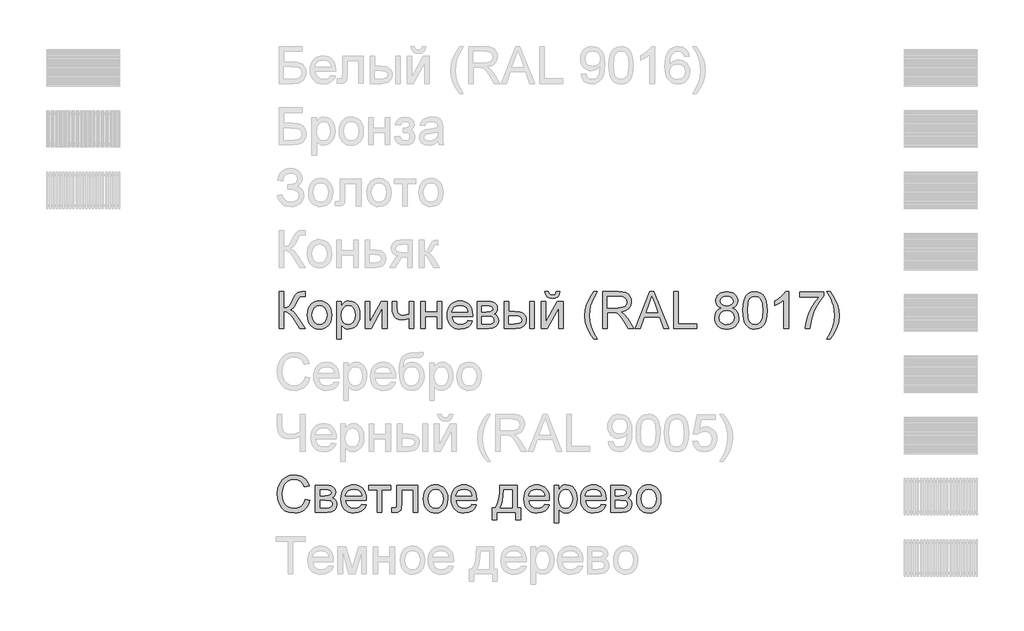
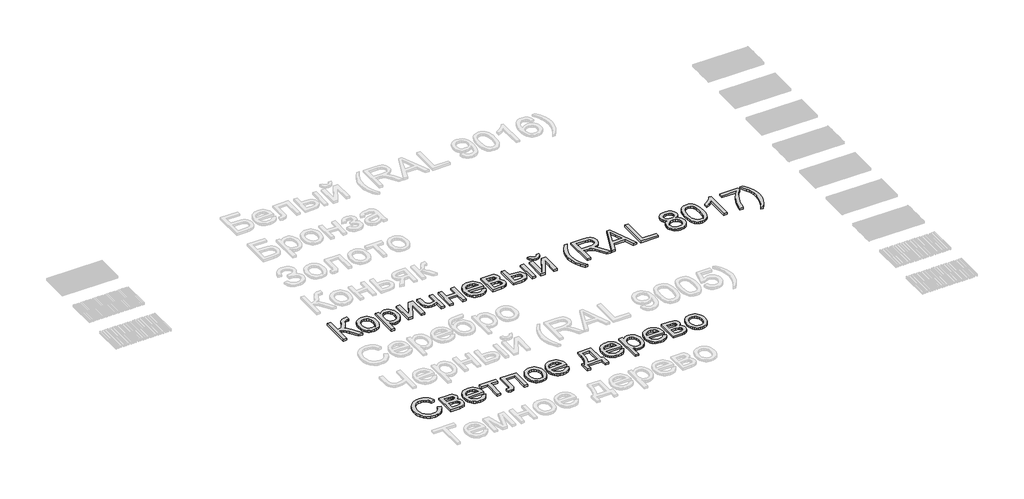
# One storey, part 5 of 10: 2 proxies.
"""IFC4 building model written with IfcOpenShell, lengths in millimetres."""

from ifc_helpers import new_model, si_unit, origin, origin_with_axes, place, context, project, spatial, polyline, outline, extrude, element, save

model = new_model("IFC4")

# Units and contexts
model_context = context("Model", 3, world=origin())
ifc_project = project(units=[si_unit("LENGTHUNIT", "METRE", prefix="MILLI")], contexts=[model_context])

# Site, building, storey
site = spatial("IfcSite", under=ifc_project)
building = spatial("IfcBuilding", under=site)
storey = spatial("IfcBuildingStorey", under=building, Name="Уровень 1", Elevation=0.0)

# Proxies
placement = place(None, origin())
element("IfcBuildingElementProxy", 1, Name="300", ObjectType="300", at=placement, inside=storey, context=model_context, shape_type="SweptSolid", body=[
    extrude(outline(polyline([(7102.1636245, -20213.7438159), (7139.8347408, -20213.7438159), (7139.8347408, -20345.592723), (7165.3381601, -20343.1003225), (7181.9572292, -20335.6231209), (7195.3941191, -20318.0291645), (7211.3510007, -20285.1864994), (7232.1363334, -20243.0640109), (7242.1611178, -20231.650472), (7255.6807811, -20222.2051018), (7271.7296331, -20215.8591374), (7289.3419836, -20213.7438159), (7314.0636537, -20214.1852743), (7314.0636537, -20251.8563906), (7305.7495206, -20251.6356614), (7297.4353875, -20251.4149322), (7280.181722, -20253.6774065), (7268.0048279, -20260.4648293), (7257.5201911, -20274.7202566), (7245.6376026, -20299.2395916), (7231.0602786, -20329.7737972), (7218.966158, -20346.4756398), (7192.9569009, -20362.0738364), (7207.5480205, -20368.2818451), (7222.0379726, -20379.1067728), (7250.7143741, -20414.6073853), (7314.0636537, -20515.1127464), (7270.3592727, -20515.1127464), (7216.7956542, -20430.2055819), (7196.111489, -20402.9731172), (7179.0877497, -20385.8758015), (7161.6777343, -20376.8534955), (7139.8347408, -20373.8460602), (7139.8347408, -20515.1127464), (7102.1636245, -20515.1127464), (7102.1636245, -20213.7438159)])), origin_with_axes(), (0.0, 0.0, 1.0), 20.0),
    extrude(outline(polyline([(7332.8992119, -20404.4538422), (7334.9363584, -20375.7912363), (7341.0477981, -20351.0925588), (7351.2335308, -20330.3578099), (7365.4935566, -20313.5869894), (7379.8501515, -20302.8678278), (7395.6966684, -20295.2112838), (7413.0331075, -20290.6173573), (7431.8594686, -20289.0860485), (7452.642502, -20290.9507504), (7471.4343742, -20296.544856), (7488.2350851, -20305.8683653), (7503.0446346, -20318.9212784), (7515.1318574, -20335.2621367), (7523.765588, -20354.449482), (7528.9458264, -20376.4833143), (7530.6725725, -20401.3636335), (7527.6191519, -20439.4210259), (7518.4588902, -20468.391733), (7503.4585019, -20490.0875737), (7482.8847013, -20506.3203667), (7458.4481398, -20516.4463186), (7431.8594686, -20519.8216359), (7410.7729325, -20517.9638318), (7391.8063163, -20512.3904196), (7374.9596202, -20503.1013992), (7360.2328441, -20490.0967707), (7348.27438, -20473.5972632), (7339.7326199, -20453.823606), (7334.6075639, -20430.775799), (7332.8992119, -20404.4538422)]), holes=[polyline([(7370.5703282, -20404.3802658), (7374.9297298, -20438.4737297), (7388.0079347, -20462.7631385), (7407.6896215, -20477.3036743), (7431.8594686, -20482.1505196), (7455.9189511, -20477.2760832), (7475.5638496, -20462.6527739), (7488.6420545, -20438.0414684), (7493.0014562, -20403.2030434), (7488.6144634, -20370.1028609), (7475.453485, -20346.144546), (7455.7809953, -20331.6040101), (7431.8594686, -20326.7571648), (7407.6896215, -20331.585616), (7388.0079347, -20346.0709696), (7374.9297298, -20370.305196), (7370.5703282, -20404.3802658)])]), origin_with_axes(), (0.0, 0.0, 1.0), 20.0),
    extrude(outline(polyline([(7573.0525783, -20599.8727581), (7573.0525783, -20293.7949381), (7610.7236946, -20293.7949381), (7610.7236946, -20330.7302904), (7623.0109533, -20312.5109346), (7636.7697399, -20299.497109), (7652.8093949, -20291.6888137), (7671.9392586, -20289.0860485), (7697.4150868, -20292.7280803), (7719.6903416, -20303.6541756), (7737.826924, -20321.2021467), (7750.8867348, -20344.7098062), (7758.7778036, -20372.4665028), (7761.4081598, -20402.7615851), (7758.4375127, -20434.9788508), (7749.5255714, -20463.7932081), (7734.9574444, -20487.7423259), (7715.0182403, -20505.3638735), (7691.7956893, -20516.2071953), (7667.3775219, -20519.8216359), (7650.059477, -20517.4028118), (7634.5992361, -20510.1463394), (7621.3646813, -20499.192653), (7610.7236946, -20485.6821868), (7610.7236946, -20599.8727581), (7573.0525783, -20599.8727581)]), holes=[polyline([(7610.7236946, -20406.2196758), (7614.7979877, -20439.991243), (7627.020867, -20463.6092671), (7645.0562818, -20477.5152065), (7666.5681815, -20482.1505196), (7688.4295691, -20477.3496596), (7706.9248364, -20462.9470795), (7719.5339917, -20438.4645327), (7723.7370435, -20403.4237726), (7719.6351593, -20369.8361465), (7707.3295066, -20345.8870286), (7689.3216829, -20331.5396308), (7668.1132859, -20326.7571648), (7646.8221154, -20331.8431334), (7628.124513, -20347.1010392), (7615.0738992, -20372.0526355), (7610.7236946, -20406.2196758)])]), origin_with_axes(), (0.0, 0.0, 1.0), 20.0),
    extrude(outline(polyline([(7803.7881657, -20293.7949381), (7841.459282, -20293.7949381), (7841.459282, -20462.5791975), (7934.018392, -20293.7949381), (7982.7259681, -20293.7949381), (7982.7259681, -20515.1127464), (7945.0548518, -20515.1127464), (7945.0548518, -20347.3585566), (7853.084353, -20515.1127464), (7803.7881657, -20515.1127464), (7803.7881657, -20293.7949381)])), origin_with_axes(), (0.0, 0.0, 1.0), 20.0),
    extrude(outline(polyline([(8025.105974, -20293.7949381), (8062.7770903, -20293.7949381), (8062.7770903, -20336.2485203), (8065.8305109, -20376.0533522), (8071.026844, -20387.623241), (8080.5090025, -20397.6112371), (8093.6056015, -20404.5090245), (8109.6452565, -20406.808287), (8132.6930635, -20403.9572015), (8161.6637706, -20395.4039451), (8161.6637706, -20293.7949381), (8199.3348869, -20293.7949381), (8199.3348869, -20515.1127464), (8161.6637706, -20515.1127464), (8161.6637706, -20431.5299571), (8129.5108842, -20441.2420417), (8099.5652898, -20444.4794033), (8076.7841973, -20441.104086), (8056.8541902, -20430.9781341), (8041.3203729, -20415.9593516), (8031.7278499, -20397.9055427), (8026.761443, -20377.3593333), (8025.105974, -20354.8633493), (8025.105974, -20293.7949381)])), origin_with_axes(), (0.0, 0.0, 1.0), 20.0),
    extrude(outline(polyline([(8255.8415614, -20293.7949381), (8293.5126777, -20293.7949381), (8293.5126777, -20378.5549498), (8392.399358, -20378.5549498), (8392.399358, -20293.7949381), (8430.0704743, -20293.7949381), (8430.0704743, -20515.1127464), (8392.399358, -20515.1127464), (8392.399358, -20416.2260661), (8293.5126777, -20416.2260661), (8293.5126777, -20515.1127464), (8255.8415614, -20515.1127464), (8255.8415614, -20293.7949381)])), origin_with_axes(), (0.0, 0.0, 1.0), 20.0),
    extrude(outline(polyline([(8641.5290451, -20449.1882928), (8678.4643974, -20453.8971824), (8665.1562662, -20481.7274553), (8643.9202781, -20502.5311821), (8615.2346795, -20515.4990225), (8579.5777171, -20519.8216359), (8556.2034149, -20517.9569341), (8535.3766954, -20512.3628285), (8517.0975588, -20503.0393192), (8501.3660049, -20489.9864061), (8488.7154628, -20473.5673728), (8479.6793613, -20454.1455027), (8474.2577004, -20431.7207959), (8472.4504801, -20406.2932522), (8474.2760945, -20380.0034851), (8479.7529377, -20356.831518), (8488.8810097, -20336.7773507), (8501.6603105, -20319.8409833), (8517.3504776, -20306.3856994), (8535.2111485, -20296.7747822), (8555.2423231, -20291.008232), (8577.4440015, -20289.0860485), (8598.9306093, -20291.0036334), (8618.3616765, -20296.7563881), (8635.7372029, -20306.3443126), (8651.0571888, -20319.7674069), (8663.5628774, -20336.6669861), (8672.4955121, -20356.6843652), (8677.8550929, -20379.8195441), (8679.6416198, -20406.072523), (8679.4208906, -20416.2260661), (8510.1215964, -20416.2260661), (8516.6423048, -20444.424221), (8531.7898459, -20465.1543714), (8553.6512335, -20477.9014826), (8580.3134811, -20482.1505196), (8600.3630498, -20480.1823509), (8617.2488334, -20474.2778449), (8630.9708318, -20464.0691195), (8641.5290451, -20449.1882928)]), holes=[polyline([(8510.1215964, -20378.5549498), (8641.9705035, -20378.5549498), (8636.8753379, -20358.6525338), (8626.8873417, -20344.4155006), (8604.9247866, -20331.1717488), (8577.2968488, -20326.7571648), (8551.903794, -20330.279635), (8530.9069292, -20340.8470453), (8516.311211, -20357.3189616), (8510.1215964, -20378.5549498)])]), origin_with_axes(), (0.0, 0.0, 1.0), 20.0),
    extrude(outline(polyline([(8717.3127361, -20293.7949381), (8800.3069142, -20293.7949381), (8826.9875559, -20295.0549339), (8845.813917, -20298.8349214), (8859.6646741, -20305.9718321), (8871.4185039, -20317.3025976), (8879.4475284, -20332.0638626), (8882.12387, -20349.4922722), (8880.5051892, -20363.5361673), (8875.6491468, -20375.648682), (8867.5373488, -20385.8849985), (8856.1514011, -20394.3002992), (8870.0941287, -20402.1269886), (8881.4616824, -20414.7177499), (8889.0216574, -20431.0793016), (8891.541649, -20450.2183624), (8885.1588964, -20478.9315522), (8869.9837641, -20499.1466678), (8845.9610698, -20511.1212267), (8813.0356313, -20515.1127464), (8717.3127361, -20515.1127464), (8717.3127361, -20293.7949381)]), holes=[polyline([(8754.9838524, -20378.5549498), (8792.2135103, -20378.5549498), (8822.9316569, -20376.6419634), (8837.8676659, -20368.9900179), (8842.8064817, -20362.6624476), (8844.4527536, -20355.1576549), (8841.56488, -20343.9188599), (8832.901259, -20336.6899787), (8817.2478801, -20332.7720355), (8793.3907327, -20331.4660544), (8754.9838524, -20331.4660544), (8754.9838524, -20378.5549498)]), polyline([(8754.9838524, -20477.4416301), (8801.189831, -20477.4416301), (8826.3713536, -20475.7401758), (8842.1718853, -20470.6358132), (8850.6515653, -20461.3559898), (8853.8705327, -20447.1281537), (8852.261049, -20437.7011775), (8847.4325978, -20428.9915713), (8840.0197756, -20422.1765573), (8830.6571788, -20418.433358), (8797.5110111, -20416.2260661), (8754.9838524, -20416.2260661), (8754.9838524, -20477.4416301)])]), origin_with_axes(), (0.0, 0.0, 1.0), 20.0),
    extrude(outline(polyline([(9145.8216841, -20293.7949381), (9183.4928004, -20293.7949381), (9183.4928004, -20515.1127464), (9145.8216841, -20515.1127464), (9145.8216841, -20293.7949381)])), origin_with_axes(), (0.0, 0.0, 1.0), 20.0),
    extrude(outline(polyline([(8938.6305444, -20293.7949381), (8976.3016607, -20293.7949381), (8976.3016607, -20373.8460602), (9022.8755213, -20373.8460602), (9063.1310086, -20378.5641468), (9079.3477068, -20384.4617551), (9092.9570414, -20392.7184066), (9103.7244875, -20403.0489929), (9111.4155205, -20415.1684053), (9116.0301403, -20429.076644), (9117.5683469, -20444.7737089), (9112.4088019, -20471.7302621), (9096.9301669, -20494.4745665), (9085.0682719, -20503.5037702), (9070.1207665, -20509.9532014), (9030.9689252, -20515.1127464), (8938.6305444, -20515.1127464), (8938.6305444, -20293.7949381)]), holes=[polyline([(8976.3016607, -20477.4416301), (9015.0028466, -20477.4416301), (9045.0036233, -20475.4642644), (9064.9612216, -20469.5321672), (9076.1632283, -20459.4062153), (9079.8972306, -20444.8472853), (9077.1289185, -20432.5416326), (9068.8239825, -20421.6707196), (9051.0644792, -20414.0555623), (9019.9324653, -20411.5171765), (8976.3016607, -20411.5171765), (8976.3016607, -20477.4416301)])]), origin_with_axes(), (0.0, 0.0, 1.0), 20.0),
    extrude(outline(polyline([(9239.9994749, -20293.7949381), (9277.6705912, -20293.7949381), (9277.6705912, -20462.5791975), (9370.2297012, -20293.7949381), (9418.9372773, -20293.7949381), (9418.9372773, -20515.1127464), (9381.266161, -20515.1127464), (9381.266161, -20347.3585566), (9289.2956622, -20515.1127464), (9239.9994749, -20515.1127464), (9239.9994749, -20293.7949381)])), origin_with_axes(), (0.0, 0.0, 1.0), 20.0),
    extrude(outline(polyline([(9362.4306029, -20213.7438159), (9390.6839401, -20213.7438159), (9384.6046901, -20237.8676778), (9372.4002049, -20255.6455752), (9354.6223075, -20266.5992616), (9331.8228209, -20270.2504904), (9307.0827567, -20266.6268527), (9287.8977106, -20255.7559398), (9274.7827175, -20238.0056335), (9268.2528121, -20213.7438159), (9296.5061493, -20213.7438159), (9300.4792749, -20226.1506362), (9307.1011508, -20234.9706071), (9316.4085653, -20240.2405166), (9328.4383065, -20241.9971532), (9342.0131521, -20240.2956989), (9351.8356014, -20235.1913363), (9358.4574773, -20226.4265477), (9362.4306029, -20213.7438159)])), origin_with_axes(), (0.0, 0.0, 1.0), 20.0),
    extrude(outline(polyline([(9668.5084228, -20599.8727581), (9639.3169865, -20558.9090979), (9615.0183807, -20511.5075028), (9598.6292379, -20459.9672353), (9593.1661902, -20406.5875578), (9597.2496804, -20359.7745739), (9609.5001508, -20314.984941), (9633.8171507, -20264.2540139), (9668.5084228, -20213.7438159), (9696.7617601, -20213.7438159), (9661.5186649, -20273.4142755), (9640.328662, -20331.2453252), (9633.2101454, -20368.9348356), (9630.8373065, -20406.808287), (9634.9575849, -20455.1019959), (9647.3184199, -20503.3773107), (9667.9198117, -20551.6342315), (9696.7617601, -20599.8727581), (9668.5084228, -20599.8727581)])), origin_with_axes(), (0.0, 0.0, 1.0), 20.0),
    extrude(outline(polyline([(9739.1417659, -20515.1127464), (9739.1417659, -20213.7438159), (9869.0041102, -20213.7438159), (9903.9069145, -20215.776364), (9929.2999692, -20221.874008), (9947.8596159, -20233.1311971), (9962.262196, -20250.64238), (9971.5052311, -20272.3566148), (9974.5862428, -20296.2229593), (9969.4818801, -20325.9110363), (9954.1687921, -20350.5223417), (9942.5690129, -20360.5517246), (9928.1871262, -20368.5669536), (9891.0770299, -20378.5549498), (9912.487762, -20394.6681812), (9943.0219676, -20433.4429435), (9993.2746482, -20515.1127464), (9949.4966908, -20515.1127464), (9910.2804701, -20452.6463836), (9881.9535564, -20411.2964473), (9862.0511405, -20391.7619134), (9844.1352873, -20384.5882145), (9822.2830968, -20383.2638393), (9776.8128822, -20383.2638393), (9776.8128822, -20515.1127464), (9739.1417659, -20515.1127464)]), holes=[polyline([(9776.8128822, -20345.592723), (9861.1314355, -20345.592723), (9885.3472679, -20344.2591508), (9904.1368408, -20340.2584341), (9918.2819035, -20333.3238585), (9928.5642052, -20323.1887095), (9934.8273962, -20310.929042), (9936.9151265, -20297.6209108), (9932.9328039, -20279.2452052), (9920.9858361, -20264.4379549), (9900.4304297, -20254.6706879), (9870.622791, -20251.4149322), (9776.8128822, -20251.4149322), (9776.8128822, -20345.592723)])]), origin_with_axes(), (0.0, 0.0, 1.0), 20.0),
    extrude(outline(polyline([(10005.414754, -20515.1127464), (10125.7121664, -20213.7438159), (10157.7914764, -20213.7438159), (10278.0888889, -20515.1127464), (10238.284057, -20515.1127464), (10203.7767258, -20420.9349556), (10079.6533407, -20420.9349556), (10045.2195859, -20515.1127464), (10005.414754, -20515.1127464)]), holes=[polyline([(10093.4857037, -20383.2638393), (10190.0179392, -20383.2638393), (10162.868248, -20309.1724055), (10141.7518214, -20251.4149322), (10122.9898397, -20302.6976824), (10093.4857037, -20383.2638393)])]), origin_with_axes(), (0.0, 0.0, 1.0), 20.0),
    extrude(outline(polyline([(10318.3351791, -20515.1127464), (10318.3351791, -20213.7438159), (10356.0062954, -20213.7438159), (10356.0062954, -20477.4416301), (10506.6907607, -20477.4416301), (10506.6907607, -20515.1127464), (10318.3351791, -20515.1127464)])), origin_with_axes(), (0.0, 0.0, 1.0), 20.0),
    extrude(outline(polyline([(10707.55433, -20349.1243902), (10687.3851996, -20339.1915763), (10673.2309399, -20325.7270953), (10664.8708215, -20309.0068586), (10662.0841154, -20289.3067777), (10663.6016286, -20273.9431059), (10668.1541683, -20259.857824), (10675.7417345, -20247.0509321), (10686.3643271, -20235.52243), (10699.5115099, -20225.9942864), (10714.6728466, -20219.1884695), (10751.0379819, -20213.7438159), (10787.6238463, -20219.3172282), (10802.9507299, -20226.2839934), (10816.3002478, -20236.0374648), (10827.1159785, -20247.7912946), (10834.8415004, -20260.7591349), (10839.4768135, -20274.9409858), (10841.0219179, -20290.3368473), (10838.272, -20309.4023317), (10830.0222462, -20325.8374599), (10816.1806861, -20339.2191674), (10796.6553493, -20349.1243902), (10819.841112, -20361.0713579), (10836.7176985, -20378.6653144), (10847.0091973, -20401.0601308), (10850.4396969, -20427.4096787), (10848.7382427, -20446.1992516), (10843.63388, -20463.4253261), (10835.1266089, -20479.087902), (10823.2164293, -20493.1869795), (10808.5287406, -20504.8396417), (10791.6889423, -20513.1629718), (10772.6970343, -20518.1569699), (10751.5530166, -20519.8216359), (10730.408999, -20518.1500721), (10711.417091, -20513.1353807), (10694.5772926, -20504.7775616), (10679.889604, -20493.0766149), (10667.9794244, -20478.8786691), (10659.4721533, -20463.0298529), (10654.3677906, -20445.5301663), (10652.6663363, -20426.3796091), (10656.2347917, -20399.0091887), (10666.9401578, -20376.4948106), (10684.2306115, -20359.609027), (10707.55433, -20349.1243902)]), holes=[polyline([(10699.7552317, -20290.4104237), (10703.0937608, -20306.8547489), (10713.1093481, -20319.9881361), (10729.5076881, -20328.5965748), (10751.994475, -20331.4660544), (10773.9570302, -20328.6149689), (10790.1070497, -20320.0617125), (10800.0398636, -20307.3697837), (10803.3508016, -20292.1026809), (10799.929499, -20276.256164), (10789.6655913, -20263.1503679), (10773.2948426, -20254.3487911), (10751.5530166, -20251.4149322), (10729.673235, -20254.2844118), (10713.3300773, -20262.8928505), (10703.1489431, -20275.5112029), (10699.7552317, -20290.4104237)]), polyline([(10690.3374526, -20425.055234), (10696.6282348, -20453.4189358), (10705.337841, -20465.5866328), (10718.8850955, -20474.6457269), (10735.1086915, -20480.2743214), (10751.8473222, -20482.1505196), (10777.4886973, -20478.2049852), (10796.7289257, -20466.368382), (10808.7586669, -20448.4433318), (10812.7685806, -20426.2324563), (10808.6299082, -20403.6445018), (10796.2138909, -20385.3239785), (10776.5322041, -20373.1838726), (10750.5965235, -20369.1371707), (10725.3138333, -20373.1286903), (10706.266743, -20385.1032493), (10694.3197752, -20403.0742847), (10690.3374526, -20425.055234)])]), origin_with_axes(), (0.0, 0.0, 1.0), 20.0),
    extrude(outline(polyline([(10883.4019237, -20366.8563023), (10886.1702357, -20318.6177757), (10894.4751718, -20280.1465161), (10908.2339584, -20250.8539122), (10927.3638221, -20230.1513529), (10952.0027188, -20217.8457002), (10982.288604, -20213.7438159), (11005.5019579, -20216.1718371), (11026.2872906, -20223.4559006), (11043.6697149, -20235.3108979), (11056.6743434, -20251.4517204), (11066.4967927, -20271.7404125), (11074.3326792, -20296.0390183), (11079.464633, -20326.8951206), (11081.1752843, -20366.8563023), (11078.4345635, -20414.8189174), (11070.2124009, -20453.1982066), (11056.5363877, -20482.5184016), (11037.4341151, -20503.3037343), (11012.7400362, -20515.6921605), (10982.288604, -20519.8216359), (10961.5400595, -20518.0282112), (10943.1459597, -20512.647937), (10927.1063047, -20503.6808134), (10913.4210945, -20491.1268403), (10900.2877073, -20468.4331197), (10890.9067164, -20440.1567899), (10885.2781219, -20406.2978507), (10883.4019237, -20366.8563023)]), holes=[polyline([(10921.07304, -20366.7827259), (10925.487624, -20426.0393183), (10931.0058539, -20446.307317), (10938.7313758, -20460.3351173), (10958.4498507, -20476.696669), (10982.288604, -20482.1505196), (11006.1273573, -20476.6782749), (11025.8458322, -20460.2615409), (11033.5713541, -20446.2107479), (11039.0895841, -20425.9473478), (11043.504168, -20366.7827259), (11039.2367369, -20308.8597058), (11033.9024479, -20288.6583857), (11026.4344434, -20274.2971923), (11006.7527567, -20257.1354973), (10981.8471456, -20251.4149322), (10958.2659097, -20256.4549156), (10939.319987, -20271.5748656), (10931.3369477, -20287.2098504), (10925.6347768, -20308.2894887), (10921.07304, -20366.7827259)])]), origin_with_axes(), (0.0, 0.0, 1.0), 20.0),
    extrude(outline(polyline([(11255.4041972, -20515.1127464), (11217.7330809, -20515.1127464), (11217.7330809, -20280.2568807), (11182.0485274, -20305.6775265), (11142.3908483, -20324.6970257), (11142.3908483, -20289.0860485), (11171.9777578, -20272.9912113), (11197.6099358, -20253.8429534), (11217.8158544, -20233.480685), (11231.1239856, -20213.7438159), (11255.4041972, -20213.7438159), (11255.4041972, -20515.1127464)])), origin_with_axes(), (0.0, 0.0, 1.0), 20.0),
    extrude(outline(polyline([(11344.8730985, -20256.1238218), (11344.8730985, -20218.4527055), (11542.6464591, -20218.4527055), (11542.6464591, -20248.9133347), (11514.4575012, -20284.5886912), (11486.5444548, -20329.9577382), (11461.9239523, -20380.8818034), (11443.612626, -20433.2222143), (11434.6363053, -20472.3832526), (11429.6331102, -20515.1127464), (11391.9619938, -20515.1127464), (11396.0362869, -20476.2828018), (11406.9347911, -20430.1320055), (11424.3632006, -20381.2128972), (11448.0272099, -20334.0780166), (11475.6551478, -20291.4680845), (11504.9753428, -20256.1238218), (11344.8730985, -20256.1238218)])), origin_with_axes(), (0.0, 0.0, 1.0), 20.0),
    extrude(outline(polyline([(11594.444244, -20599.8727581), (11566.1909068, -20599.8727581), (11595.0328552, -20551.6342315), (11615.6342469, -20503.3773107), (11627.995082, -20455.1019959), (11632.1153603, -20406.808287), (11629.7425214, -20369.2107471), (11622.6240048, -20331.9075128), (11613.62929, -20302.3481945), (11601.6547311, -20274.0028867), (11566.1909068, -20213.7438159), (11594.444244, -20213.7438159), (11629.1355161, -20264.2540139), (11653.452516, -20314.984941), (11665.7029865, -20359.7745739), (11669.7864766, -20406.5875578), (11664.2958378, -20459.9672353), (11647.8239215, -20511.5075028), (11623.4977246, -20558.9090979), (11594.444244, -20599.8727581)])), origin_with_axes(), (0.0, 0.0, 1.0), 20.0),
])
element("IfcBuildingElementProxy", 2, Name="300", ObjectType="300", at=placement, inside=storey, context=model_context, shape_type="SweptSolid", body=[
    extrude(outline(polyline([(7314.0636537, -21907.9855094), (7351.73477, -21917.6975941), (7344.2805611, -21941.1247794), (7334.3523457, -21961.5951131), (7321.950124, -21979.1085954), (7307.0738958, -21993.6652261), (7290.0593535, -22005.1086554), (7271.2421895, -22013.2825335), (7250.6224036, -22018.1868603), (7228.199996, -22019.8216359), (7184.5048121, -22014.8736231), (7149.8043429, -22000.0295846), (7123.2064746, -21975.8045552), (7103.8190935, -21942.7135697), (7091.9824903, -21903.8100487), (7088.0369559, -21862.1474128), (7092.4975251, -21818.2039085), (7105.8792326, -21780.2568807), (7127.4831028, -21749.5111429), (7156.6101598, -21727.1715088), (7191.1542791, -21713.569072), (7229.0093364, -21709.0349264), (7270.3132874, -21714.9026442), (7288.2820236, -21722.2372915), (7304.4619336, -21732.5057977), (7318.586303, -21745.4368498), (7330.3884172, -21760.7591349), (7347.0258805, -21798.577404), (7309.3547642, -21807.5537247), (7296.2949533, -21780.0821367), (7278.4526766, -21761.2373815), (7255.6072047, -21750.3388774), (7227.5378084, -21746.7060427), (7195.182587, -21750.7343505), (7168.6031128, -21762.8192741), (7148.4339824, -21781.6916204), (7135.3097923, -21806.0821967), (7128.1085022, -21833.6549523), (7125.7080722, -21862.0738364), (7128.5499606, -21896.8754731), (7137.0756258, -21926.9682203), (7151.6069646, -21951.2024468), (7172.4658738, -21968.4285212), (7197.4726524, -21978.72002), (7224.4475997, -21982.1505196), (7255.8923132, -21977.4784183), (7282.0947083, -21963.4621143), (7301.8775626, -21940.2487604), (7314.0636537, -21907.9855094)])), origin_with_axes(), (0.0, 0.0, 1.0), 20.0),
    extrude(outline(polyline([(7398.8236654, -21793.7949381), (7481.8178435, -21793.7949381), (7508.4984852, -21795.0549339), (7527.3248463, -21798.8349214), (7541.1756034, -21805.9718321), (7552.9294332, -21817.3025976), (7560.9584577, -21832.0638626), (7563.6347992, -21849.4922722), (7562.0161185, -21863.5361673), (7557.1600761, -21875.648682), (7549.0482781, -21885.8849985), (7537.6623304, -21894.3002992), (7551.605058, -21902.1269886), (7562.9726116, -21914.7177499), (7570.5325867, -21931.0793016), (7573.0525783, -21950.2183624), (7566.6698257, -21978.9315522), (7551.4946934, -21999.1466678), (7527.4719991, -22011.1212267), (7494.5465605, -22015.1127464), (7398.8236654, -22015.1127464), (7398.8236654, -21793.7949381)]), holes=[polyline([(7436.4947817, -21878.5549498), (7473.7244396, -21878.5549498), (7504.4425862, -21876.6419634), (7519.3785952, -21868.9900179), (7524.317411, -21862.6624476), (7525.9636829, -21855.1576549), (7523.0758093, -21843.9188599), (7514.4121883, -21836.6899787), (7498.7588094, -21832.7720355), (7474.901662, -21831.4660544), (7436.4947817, -21831.4660544), (7436.4947817, -21878.5549498)]), polyline([(7436.4947817, -21977.4416301), (7482.7007603, -21977.4416301), (7507.8822829, -21975.7401758), (7523.6828146, -21970.6358132), (7532.1624946, -21961.3559898), (7535.381462, -21947.1281537), (7533.7719783, -21937.7011775), (7528.9435271, -21928.9915713), (7521.5307049, -21922.1765573), (7512.1681081, -21918.433358), (7479.0219403, -21916.2260661), (7436.4947817, -21916.2260661), (7436.4947817, -21977.4416301)])]), origin_with_axes(), (0.0, 0.0, 1.0), 20.0),
    extrude(outline(polyline([(7775.0933701, -21949.1882928), (7812.0287224, -21953.8971824), (7798.7205912, -21981.7274553), (7777.484603, -22002.5311821), (7748.7990045, -22015.4990225), (7713.1420421, -22019.8216359), (7689.7677398, -22017.9569341), (7668.9410204, -22012.3628285), (7650.6618837, -22003.0393192), (7634.9303299, -21989.9864061), (7622.2797878, -21973.5673728), (7613.2436863, -21954.1455027), (7607.8220254, -21931.7207959), (7606.0148051, -21906.2932522), (7607.8404195, -21880.0034851), (7613.3172627, -21856.831518), (7622.4453347, -21836.7773507), (7635.2246355, -21819.8409833), (7650.9148026, -21806.3856994), (7668.7754735, -21796.7747822), (7688.8066481, -21791.008232), (7711.0083265, -21789.0860485), (7732.4949343, -21791.0036334), (7751.9260014, -21796.7563881), (7769.3015279, -21806.3443126), (7784.6215137, -21819.7674069), (7797.1272023, -21836.6669861), (7806.059837, -21856.6843652), (7811.4194178, -21879.8195441), (7813.2059448, -21906.072523), (7812.9852156, -21916.2260661), (7643.6859214, -21916.2260661), (7650.2066298, -21944.424221), (7665.3541709, -21965.1543714), (7687.2155585, -21977.9014826), (7713.8778061, -21982.1505196), (7733.9273748, -21980.1823509), (7750.8131584, -21974.2778449), (7764.5351568, -21964.0691195), (7775.0933701, -21949.1882928)]), holes=[polyline([(7643.6859214, -21878.5549498), (7775.5348285, -21878.5549498), (7770.4396628, -21858.6525338), (7760.4516667, -21844.4155006), (7738.4891115, -21831.1717488), (7710.8611737, -21826.7571648), (7685.468119, -21830.279635), (7664.4712541, -21840.8470453), (7649.875536, -21857.3189616), (7643.6859214, -21878.5549498)])]), origin_with_axes(), (0.0, 0.0, 1.0), 20.0),
    extrude(outline(polyline([(7832.0415029, -21793.7949381), (8010.9793054, -21793.7949381), (8010.9793054, -21831.4660544), (7940.3459623, -21831.4660544), (7940.3459623, -22015.1127464), (7902.674846, -22015.1127464), (7902.674846, -21831.4660544), (7832.0415029, -21831.4660544), (7832.0415029, -21793.7949381)])), origin_with_axes(), (0.0, 0.0, 1.0), 20.0),
    extrude(outline(polyline([(8062.7770903, -21793.7949381), (8232.2971137, -21793.7949381), (8232.2971137, -22014.8920172), (8194.6259974, -22014.8920172), (8194.6259974, -21831.4660544), (8100.4482066, -21831.4660544), (8100.4482066, -21937.048187), (8097.9098208, -21985.7557632), (8093.154946, -21996.783026), (8083.9670932, -22006.3203667), (8070.0243656, -22012.9146515), (8051.0048665, -22015.1127464), (8020.3970845, -22013.19976), (8020.3970845, -21977.4416301), (8037.2460798, -21977.4416301), (8054.2790162, -21975.1239735), (8061.0848331, -21967.7663336), (8062.7770903, -21934.9144714), (8062.7770903, -21793.7949381)])), origin_with_axes(), (0.0, 0.0, 1.0), 20.0),
    extrude(outline(polyline([(8279.3860091, -21904.4538422), (8281.4231556, -21875.7912363), (8287.5345952, -21851.0925588), (8297.720328, -21830.3578099), (8311.9803538, -21813.5869894), (8326.3369487, -21802.8678278), (8342.1834656, -21795.2112838), (8359.5199047, -21790.6173573), (8378.3462658, -21789.0860485), (8399.1292992, -21790.9507504), (8417.9211714, -21796.544856), (8434.7218823, -21805.8683653), (8449.5314318, -21818.9212784), (8461.6186546, -21835.2621367), (8470.2523852, -21854.449482), (8475.4326235, -21876.4833143), (8477.1593697, -21901.3636335), (8474.1059491, -21939.4210259), (8464.9456874, -21968.391733), (8449.9452991, -21990.0875737), (8429.3714985, -22006.3203667), (8404.934937, -22016.4463186), (8378.3462658, -22019.8216359), (8357.2597296, -22017.9638318), (8338.2931135, -22012.3904196), (8321.4464174, -22003.1013992), (8306.7196413, -21990.0967707), (8294.7611772, -21973.5972632), (8286.2194171, -21953.823606), (8281.0943611, -21930.775799), (8279.3860091, -21904.4538422)]), holes=[polyline([(8317.0571254, -21904.3802658), (8321.416527, -21938.4737297), (8334.4947319, -21962.7631385), (8354.1764187, -21977.3036743), (8378.3462658, -21982.1505196), (8402.4057482, -21977.2760832), (8422.0506468, -21962.6527739), (8435.1288517, -21938.0414684), (8439.4882534, -21903.2030434), (8435.1012606, -21870.1028609), (8421.9402822, -21846.144546), (8402.2677925, -21831.6040101), (8378.3462658, -21826.7571648), (8354.1764187, -21831.585616), (8334.4947319, -21846.0709696), (8321.416527, -21870.305196), (8317.0571254, -21904.3802658)])]), origin_with_axes(), (0.0, 0.0, 1.0), 20.0),
    extrude(outline(polyline([(8674.4912719, -21949.1882928), (8711.4266242, -21953.8971824), (8698.118493, -21981.7274553), (8676.8825048, -22002.5311821), (8648.1969063, -22015.4990225), (8612.5399439, -22019.8216359), (8589.1656416, -22017.9569341), (8568.3389222, -22012.3628285), (8550.0597855, -22003.0393192), (8534.3282317, -21989.9864061), (8521.6776896, -21973.5673728), (8512.6415881, -21954.1455027), (8507.2199272, -21931.7207959), (8505.4127069, -21906.2932522), (8507.2383213, -21880.0034851), (8512.7151645, -21856.831518), (8521.8432365, -21836.7773507), (8534.6225373, -21819.8409833), (8550.3127044, -21806.3856994), (8568.1733753, -21796.7747822), (8588.2045499, -21791.008232), (8610.4062283, -21789.0860485), (8631.8928361, -21791.0036334), (8651.3239032, -21796.7563881), (8668.6994297, -21806.3443126), (8684.0194156, -21819.7674069), (8696.5251041, -21836.6669861), (8705.4577388, -21856.6843652), (8710.8173196, -21879.8195441), (8712.6038466, -21906.072523), (8712.3831174, -21916.2260661), (8543.0838232, -21916.2260661), (8549.6045316, -21944.424221), (8564.7520727, -21965.1543714), (8586.6134603, -21977.9014826), (8613.2757079, -21982.1505196), (8633.3252766, -21980.1823509), (8650.2110602, -21974.2778449), (8663.9330586, -21964.0691195), (8674.4912719, -21949.1882928)]), holes=[polyline([(8543.0838232, -21878.5549498), (8674.9327303, -21878.5549498), (8669.8375646, -21858.6525338), (8659.8495685, -21844.4155006), (8637.8870134, -21831.1717488), (8610.2590755, -21826.7571648), (8584.8660208, -21830.279635), (8563.8691559, -21840.8470453), (8549.2734378, -21857.3189616), (8543.0838232, -21878.5549498)])]), origin_with_axes(), (0.0, 0.0, 1.0), 20.0),
    extrude(outline(polyline([(8900.9594281, -21793.7949381), (9042.2261143, -21793.7949381), (9042.2261143, -21977.4416301), (9070.4794515, -21977.4416301), (9070.4794515, -22076.3283104), (9032.8083352, -22076.3283104), (9032.8083352, -22015.1127464), (8877.4149804, -22015.1127464), (8877.4149804, -22076.3283104), (8839.7438641, -22076.3283104), (8839.7438641, -21977.4416301), (8863.2883118, -21977.4416301), (8880.4040216, -21946.5119513), (8892.3877776, -21905.5942764), (8899.2395798, -21854.6886053), (8900.9594281, -21793.7949381)]), holes=[polyline([(8933.9216549, -21831.4660544), (8930.8314461, -21877.5892595), (8925.092487, -21917.2929239), (8916.7047775, -21950.5770474), (8905.6683176, -21977.4416301), (9004.5549979, -21977.4416301), (9004.5549979, -21831.4660544), (8933.9216549, -21831.4660544)])]), origin_with_axes(), (0.0, 0.0, 1.0), 20.0),
    extrude(outline(polyline([(9267.8113537, -21949.1882928), (9304.746706, -21953.8971824), (9291.4385748, -21981.7274553), (9270.2025867, -22002.5311821), (9241.5169881, -22015.4990225), (9205.8600257, -22019.8216359), (9182.4857234, -22017.9569341), (9161.659004, -22012.3628285), (9143.3798674, -22003.0393192), (9127.6483135, -21989.9864061), (9114.9977714, -21973.5673728), (9105.9616699, -21954.1455027), (9100.540009, -21931.7207959), (9098.7327887, -21906.2932522), (9100.5584031, -21880.0034851), (9106.0352463, -21856.831518), (9115.1633183, -21836.7773507), (9127.9426191, -21819.8409833), (9143.6327862, -21806.3856994), (9161.4934571, -21796.7747822), (9181.5246317, -21791.008232), (9203.7263101, -21789.0860485), (9225.2129179, -21791.0036334), (9244.6439851, -21796.7563881), (9262.0195115, -21806.3443126), (9277.3394974, -21819.7674069), (9289.8451859, -21836.6669861), (9298.7778206, -21856.6843652), (9304.1374015, -21879.8195441), (9305.9239284, -21906.072523), (9305.7031992, -21916.2260661), (9136.403905, -21916.2260661), (9142.9246134, -21944.424221), (9158.0721545, -21965.1543714), (9179.9335421, -21977.9014826), (9206.5957897, -21982.1505196), (9226.6453584, -21980.1823509), (9243.531142, -21974.2778449), (9257.2531404, -21964.0691195), (9267.8113537, -21949.1882928)]), holes=[polyline([(9136.403905, -21878.5549498), (9268.2528121, -21878.5549498), (9263.1576465, -21858.6525338), (9253.1696503, -21844.4155006), (9231.2070952, -21831.1717488), (9203.5791573, -21826.7571648), (9178.1861026, -21830.279635), (9157.1892377, -21840.8470453), (9142.5935196, -21857.3189616), (9136.403905, -21878.5549498)])]), origin_with_axes(), (0.0, 0.0, 1.0), 20.0),
    extrude(outline(polyline([(9343.5950447, -22099.8727581), (9343.5950447, -21793.7949381), (9381.266161, -21793.7949381), (9381.266161, -21830.7302904), (9393.5534196, -21812.5109346), (9407.3122063, -21799.497109), (9423.3518613, -21791.6888137), (9442.481725, -21789.0860485), (9467.9575532, -21792.7280803), (9490.232808, -21803.6541756), (9508.3693903, -21821.2021467), (9521.4292012, -21844.7098062), (9529.32027, -21872.4665028), (9531.9506262, -21902.7615851), (9528.9799791, -21934.9788508), (9520.0680378, -21963.7932081), (9505.4999108, -21987.7423259), (9485.5607066, -22005.3638735), (9462.3381557, -22016.2071953), (9437.9199883, -22019.8216359), (9420.6019433, -22017.4028118), (9405.1417025, -22010.1463394), (9391.9071477, -21999.192653), (9381.266161, -21985.6821868), (9381.266161, -22099.8727581), (9343.5950447, -22099.8727581)]), holes=[polyline([(9381.266161, -21906.2196758), (9385.3404541, -21939.991243), (9397.5633334, -21963.6092671), (9415.5987482, -21977.5152065), (9437.1106479, -21982.1505196), (9458.9720354, -21977.3496596), (9477.4673027, -21962.9470795), (9490.0764581, -21938.4645327), (9494.2795099, -21903.4237726), (9490.1776257, -21869.8361465), (9477.8719729, -21845.8870286), (9459.8641493, -21831.5396308), (9438.6557523, -21826.7571648), (9417.3645818, -21831.8431334), (9398.6669794, -21847.1010392), (9385.6163656, -21872.0526355), (9381.266161, -21906.2196758)])]), origin_with_axes(), (0.0, 0.0, 1.0), 20.0),
    extrude(outline(polyline([(9729.2825284, -21949.1882928), (9766.2178808, -21953.8971824), (9752.9097496, -21981.7274553), (9731.6737614, -22002.5311821), (9702.9881628, -22015.4990225), (9667.3312005, -22019.8216359), (9643.9568982, -22017.9569341), (9623.1301787, -22012.3628285), (9604.8510421, -22003.0393192), (9589.1194883, -21989.9864061), (9576.4689462, -21973.5673728), (9567.4328447, -21954.1455027), (9562.0111838, -21931.7207959), (9560.2039635, -21906.2932522), (9562.0295779, -21880.0034851), (9567.5064211, -21856.831518), (9576.6344931, -21836.7773507), (9589.4137939, -21819.8409833), (9605.103961, -21806.3856994), (9622.9646318, -21796.7747822), (9642.9958065, -21791.008232), (9665.1974849, -21789.0860485), (9686.6840927, -21791.0036334), (9706.1151598, -21796.7563881), (9723.4906863, -21806.3443126), (9738.8106721, -21819.7674069), (9751.3163607, -21836.6669861), (9760.2489954, -21856.6843652), (9765.6085762, -21879.8195441), (9767.3951031, -21906.072523), (9767.174374, -21916.2260661), (9597.8750798, -21916.2260661), (9604.3957881, -21944.424221), (9619.5433293, -21965.1543714), (9641.4047168, -21977.9014826), (9668.0669644, -21982.1505196), (9688.1165332, -21980.1823509), (9705.0023168, -21974.2778449), (9718.7243152, -21964.0691195), (9729.2825284, -21949.1882928)]), holes=[polyline([(9597.8750798, -21878.5549498), (9729.7239868, -21878.5549498), (9724.6288212, -21858.6525338), (9714.640825, -21844.4155006), (9692.6782699, -21831.1717488), (9665.0503321, -21826.7571648), (9639.6572774, -21830.279635), (9618.6604125, -21840.8470453), (9604.0646943, -21857.3189616), (9597.8750798, -21878.5549498)])]), origin_with_axes(), (0.0, 0.0, 1.0), 20.0),
    extrude(outline(polyline([(9805.0662195, -21793.7949381), (9888.0603976, -21793.7949381), (9914.7410393, -21795.0549339), (9933.5674004, -21798.8349214), (9947.4181575, -21805.9718321), (9959.1719872, -21817.3025976), (9967.2010118, -21832.0638626), (9969.8773533, -21849.4922722), (9968.2586725, -21863.5361673), (9963.4026302, -21875.648682), (9955.2908322, -21885.8849985), (9943.9048844, -21894.3002992), (9957.8476121, -21902.1269886), (9969.2151657, -21914.7177499), (9976.7751407, -21931.0793016), (9979.2951324, -21950.2183624), (9972.9123798, -21978.9315522), (9957.7372475, -21999.1466678), (9933.7145532, -22011.1212267), (9900.7891146, -22015.1127464), (9805.0662195, -22015.1127464), (9805.0662195, -21793.7949381)]), holes=[polyline([(9842.7373358, -21878.5549498), (9879.9669937, -21878.5549498), (9910.6851403, -21876.6419634), (9925.6211493, -21868.9900179), (9930.5599651, -21862.6624476), (9932.206237, -21855.1576549), (9929.3183633, -21843.9188599), (9920.6547423, -21836.6899787), (9905.0013634, -21832.7720355), (9881.1442161, -21831.4660544), (9842.7373358, -21831.4660544), (9842.7373358, -21878.5549498)]), polyline([(9842.7373358, -21977.4416301), (9888.9433144, -21977.4416301), (9914.1248369, -21975.7401758), (9929.9253686, -21970.6358132), (9938.4050486, -21961.3559898), (9941.6240161, -21947.1281537), (9940.0145323, -21937.7011775), (9935.1860811, -21928.9915713), (9927.7732589, -21922.1765573), (9918.4106622, -21918.433358), (9885.2644944, -21916.2260661), (9842.7373358, -21916.2260661), (9842.7373358, -21977.4416301)])]), origin_with_axes(), (0.0, 0.0, 1.0), 20.0),
    extrude(outline(polyline([(10016.9662487, -21904.4538422), (10019.0033952, -21875.7912363), (10025.1148349, -21851.0925588), (10035.3005676, -21830.3578099), (10049.5605934, -21813.5869894), (10063.9171883, -21802.8678278), (10079.7637053, -21795.2112838), (10097.1001443, -21790.6173573), (10115.9265054, -21789.0860485), (10136.7095388, -21790.9507504), (10155.501411, -21796.544856), (10172.3021219, -21805.8683653), (10187.1116714, -21818.9212784), (10199.1988942, -21835.2621367), (10207.8326248, -21854.449482), (10213.0128632, -21876.4833143), (10214.7396093, -21901.3636335), (10211.6861887, -21939.4210259), (10202.525927, -21968.391733), (10187.5255387, -21990.0875737), (10166.9517381, -22006.3203667), (10142.5151766, -22016.4463186), (10115.9265054, -22019.8216359), (10094.8399693, -22017.9638318), (10075.8733532, -22012.3904196), (10059.026657, -22003.1013992), (10044.2998809, -21990.0967707), (10032.3414168, -21973.5972632), (10023.7996567, -21953.823606), (10018.6746007, -21930.775799), (10016.9662487, -21904.4538422)]), holes=[polyline([(10054.637365, -21904.3802658), (10058.9967666, -21938.4737297), (10072.0749716, -21962.7631385), (10091.7566583, -21977.3036743), (10115.9265054, -21982.1505196), (10139.9859879, -21977.2760832), (10159.6308864, -21962.6527739), (10172.7090913, -21938.0414684), (10177.068493, -21903.2030434), (10172.6815002, -21870.1028609), (10159.5205218, -21846.144546), (10139.8480321, -21831.6040101), (10115.9265054, -21826.7571648), (10091.7566583, -21831.585616), (10072.0749716, -21846.0709696), (10058.9967666, -21870.305196), (10054.637365, -21904.3802658)])]), origin_with_axes(), (0.0, 0.0, 1.0), 20.0),
])

save(model, "model.ifc")
